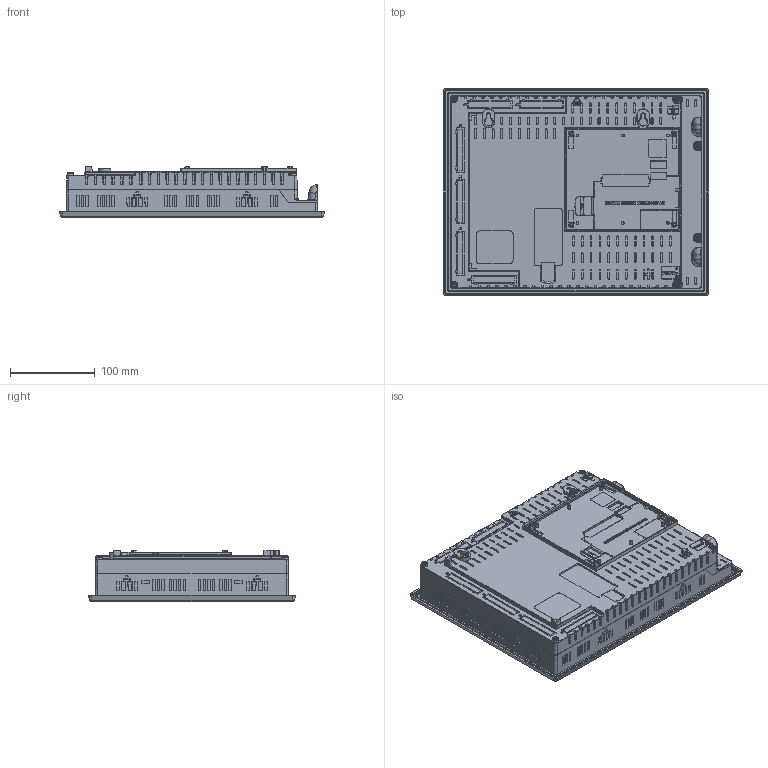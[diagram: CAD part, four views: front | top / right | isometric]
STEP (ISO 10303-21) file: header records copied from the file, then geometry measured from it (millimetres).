
FILE_DESCRIPTION (( 'STEP AP203' ), '1' );
FILE_NAME ('V1210-T20B.STEP', '2011-06-29T05:09:21', ( 'unitronics' ), ( 'unitronics' ), 'SwSTEP 2.0', 'SolidWorks 2009', '' );
FILE_SCHEMA (( 'CONFIG_CONTROL_DESIGN' ));
Products named in the file (1): V1210-T20B
Bounding box: 313.1 x 244.59 x 59.15 mm (x, y, z)
Volume: 3222706 mm3; surface area: 370715.7 mm2
Topology: 1 solids, 10 shells, 5765 faces, 15188 edges, 9755 vertices
Faces by surface type: plane 3464, bspline 931, cylinder 881, cone 489
Entity records: 223558 total; most frequent: CARTESIAN_POINT 92237, ORIENTED_EDGE 30340, DIRECTION 21899, EDGE_CURVE 15170, VERTEX_POINT 9755, LINE 9471, VECTOR 9471, AXIS2_PLACEMENT_3D 6214
